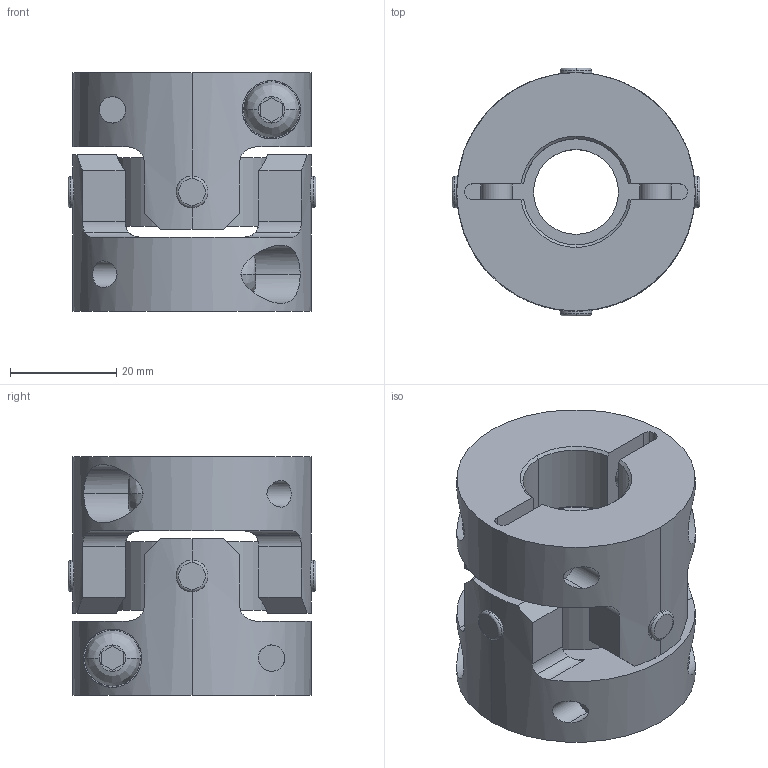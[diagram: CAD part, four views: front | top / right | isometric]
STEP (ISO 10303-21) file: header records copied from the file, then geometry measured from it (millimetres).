
FILE_DESCRIPTION((''),'2;1');
FILE_NAME('UA-45C-19×20.stp','2013-05-22T09:48:12',(''),(''),'AutoCAD STEP 2000i','AutoCAD 2000i',', , ');
FILE_SCHEMA(('CONFIG_CONTROL_DESIGN'));
Length unit declared in the file: millimetre
Products named in the file (8): UA-45C-17×17; 忣兜1; UA-4502-D17-1; BTN-M6; UA-4502-D17; UA-4502-D08-1; UA-4502-D08; UA45-SEN
Assembly tree (10 placements, depth 3):
  UA-45C-17×17
    忣兜1
    UA-4502-D17-1
      BTN-M6
    UA-4502-D17
      BTN-M6
    UA-4502-D08-1
      BTN-M6
    UA-4502-D08
      BTN-M6
    UA45-SEN
Bounding box: 46.73 x 46.73 x 45 mm (x, y, z)
Volume: 46791.3 mm3; surface area: 19220.2 mm2
Topology: 1 solids, 1 shells, 206 faces, 554 edges, 364 vertices
Faces by surface type: cylinder 96, plane 78, cone 16, bspline 8, torus 8
Entity records: 8551 total; most frequent: CARTESIAN_POINT 3195, ORIENTED_EDGE 1108, DIRECTION 1072, EDGE_CURVE 554, AXIS2_PLACEMENT_3D 413, VERTEX_POINT 364, VECTOR 246, LINE 246
